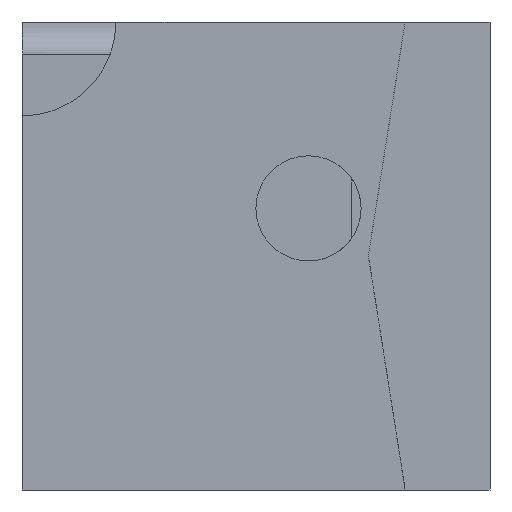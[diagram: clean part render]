
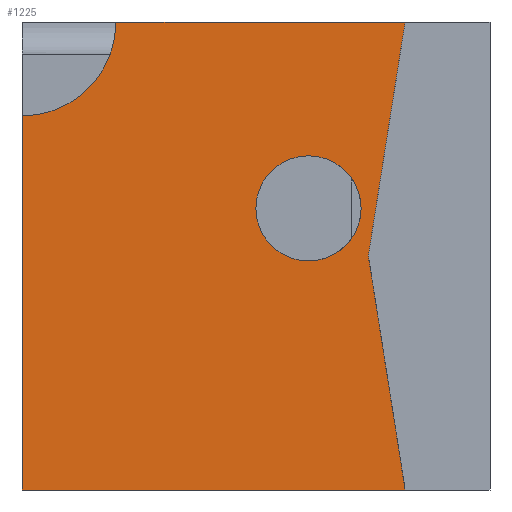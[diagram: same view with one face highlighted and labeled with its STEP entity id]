
A CAD part, left-side view. The second image highlights one B-rep face of the part: STEP entity #1225.
In plain terms, the highlighted planar face has unit normal (-1, 0, 0).
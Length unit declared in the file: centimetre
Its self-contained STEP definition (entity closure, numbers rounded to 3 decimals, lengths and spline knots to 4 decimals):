
#7 = EDGE_CURVE ( 'NONE', #531, #131, #585, .T. ) ;
#68 = CARTESIAN_POINT ( 'NONE',  ( 0., 1000., 0. ) ) ;
#75 = DIRECTION ( 'NONE',  ( 0., -1., 0. ) ) ;
#90 = DIRECTION ( 'NONE',  ( 0., 0., 1. ) ) ;
#111 = AXIS2_PLACEMENT_3D ( 'NONE', #735, #1057, #90 ) ;
#119 = ORIENTED_EDGE ( 'NONE', *, *, #7, .F. ) ;
#131 = VERTEX_POINT ( 'NONE', #1050 ) ;
#150 = EDGE_CURVE ( 'NONE', #455, #994, #826, .T. ) ;
#174 = EDGE_CURVE ( 'NONE', #994, #531, #446, .T. ) ;
#210 = PLANE ( 'NONE',  #1084 ) ;
#246 = DIRECTION ( 'NONE',  ( -1., 0., 0. ) ) ;
#259 = ORIENTED_EDGE ( 'NONE', *, *, #1320, .F. ) ;
#273 = VECTOR ( 'NONE', #75, 100. ) ;
#288 = DIRECTION ( 'NONE',  ( 0., -1., 0. ) ) ;
#324 = CARTESIAN_POINT ( 'NONE',  ( 0., 1000., 1000. ) ) ;
#370 = ORIENTED_EDGE ( 'NONE', *, *, #1000, .F. ) ;
#374 = CARTESIAN_POINT ( 'NONE',  ( 0., 1000., 799.1964 ) ) ;
#405 = VECTOR ( 'NONE', #688, 100. ) ;
#418 = VERTEX_POINT ( 'NONE', #918 ) ;
#438 = VERTEX_POINT ( 'NONE', #374 ) ;
#446 = LINE ( 'NONE', #636, #701 ) ;
#454 = FACE_BOUND ( 'NONE', #974, .T. ) ;
#455 = VERTEX_POINT ( 'NONE', #901 ) ;
#480 = EDGE_LOOP ( 'NONE', ( #1082, #119, #492, #1201, #1265, #879 ) ) ;
#483 = VERTEX_POINT ( 'NONE', #488 ) ;
#488 = CARTESIAN_POINT ( 'NONE',  ( 0., 387.8062, 489.3356 ) ) ;
#492 = ORIENTED_EDGE ( 'NONE', *, *, #174, .F. ) ;
#507 = CARTESIAN_POINT ( 'NONE',  ( 0., 181.3695, 1000. ) ) ;
#512 = CARTESIAN_POINT ( 'NONE',  ( 0., 387.8062, 601.772 ) ) ;
#531 = VERTEX_POINT ( 'NONE', #1014 ) ;
#535 = VECTOR ( 'NONE', #288, 100. ) ;
#585 = LINE ( 'NONE', #803, #405 ) ;
#600 = CARTESIAN_POINT ( 'NONE',  ( 0., 1000., 1000. ) ) ;
#636 = CARTESIAN_POINT ( 'NONE',  ( 0., 181.3695, 1000. ) ) ;
#660 = DIRECTION ( 'NONE',  ( 1., 0., 0. ) ) ;
#671 = DIRECTION ( 'NONE',  ( 0., 0., 1. ) ) ;
#688 = DIRECTION ( 'NONE',  ( 0., -0.155, -0.988 ) ) ;
#701 = VECTOR ( 'NONE', #760, 100. ) ;
#726 = CIRCLE ( 'NONE', #111, 200.8036 ) ;
#731 = DIRECTION ( 'NONE',  ( 0., 0., 1. ) ) ;
#735 = CARTESIAN_POINT ( 'NONE',  ( 0., 1000., 1000. ) ) ;
#760 = DIRECTION ( 'NONE',  ( 0., 0.155, -0.988 ) ) ;
#766 = FACE_OUTER_BOUND ( 'NONE', #480, .T. ) ;
#803 = CARTESIAN_POINT ( 'NONE',  ( 0., 259.9818, 500. ) ) ;
#826 = LINE ( 'NONE', #1255, #535 ) ;
#837 = VECTOR ( 'NONE', #1060, 100. ) ;
#840 = VERTEX_POINT ( 'NONE', #68 ) ;
#879 = ORIENTED_EDGE ( 'NONE', *, *, #1119, .T. ) ;
#901 = CARTESIAN_POINT ( 'NONE',  ( 0., 799.1964, 1000. ) ) ;
#918 = CARTESIAN_POINT ( 'NONE',  ( 0., 387.8062, 714.2083 ) ) ;
#925 = AXIS2_PLACEMENT_3D ( 'NONE', #1307, #246, #671 ) ;
#974 = EDGE_LOOP ( 'NONE', ( #370, #259 ) ) ;
#985 = DIRECTION ( 'NONE',  ( 0., 0., -1. ) ) ;
#994 = VERTEX_POINT ( 'NONE', #507 ) ;
#1000 = EDGE_CURVE ( 'NONE', #418, #483, #1310, .T. ) ;
#1014 = CARTESIAN_POINT ( 'NONE',  ( 0., 259.9818, 500. ) ) ;
#1039 = DIRECTION ( 'NONE',  ( -1., 0., 0. ) ) ;
#1040 = EDGE_CURVE ( 'NONE', #840, #131, #1044, .T. ) ;
#1044 = LINE ( 'NONE', #1163, #273 ) ;
#1050 = CARTESIAN_POINT ( 'NONE',  ( 0., 181.3695, 0. ) ) ;
#1052 = EDGE_CURVE ( 'NONE', #438, #455, #726, .T. ) ;
#1057 = DIRECTION ( 'NONE',  ( -1., 0., 0. ) ) ;
#1060 = DIRECTION ( 'NONE',  ( 0., 0., -1. ) ) ;
#1082 = ORIENTED_EDGE ( 'NONE', *, *, #1040, .T. ) ;
#1084 = AXIS2_PLACEMENT_3D ( 'NONE', #324, #660, #985 ) ;
#1119 = EDGE_CURVE ( 'NONE', #438, #840, #1361, .T. ) ;
#1130 = CIRCLE ( 'NONE', #925, 112.4364 ) ;
#1163 = CARTESIAN_POINT ( 'NONE',  ( 0., 1000., 0. ) ) ;
#1201 = ORIENTED_EDGE ( 'NONE', *, *, #150, .F. ) ;
#1225 = ADVANCED_FACE ( 'NONE', ( #454, #766 ), #210, .F. ) ;
#1255 = CARTESIAN_POINT ( 'NONE',  ( 0., 1000., 1000. ) ) ;
#1265 = ORIENTED_EDGE ( 'NONE', *, *, #1052, .F. ) ;
#1307 = CARTESIAN_POINT ( 'NONE',  ( 0., 387.8062, 601.772 ) ) ;
#1310 = CIRCLE ( 'NONE', #1397, 112.4364 ) ;
#1320 = EDGE_CURVE ( 'NONE', #483, #418, #1130, .T. ) ;
#1361 = LINE ( 'NONE', #600, #837 ) ;
#1397 = AXIS2_PLACEMENT_3D ( 'NONE', #512, #1039, #731 ) ;
